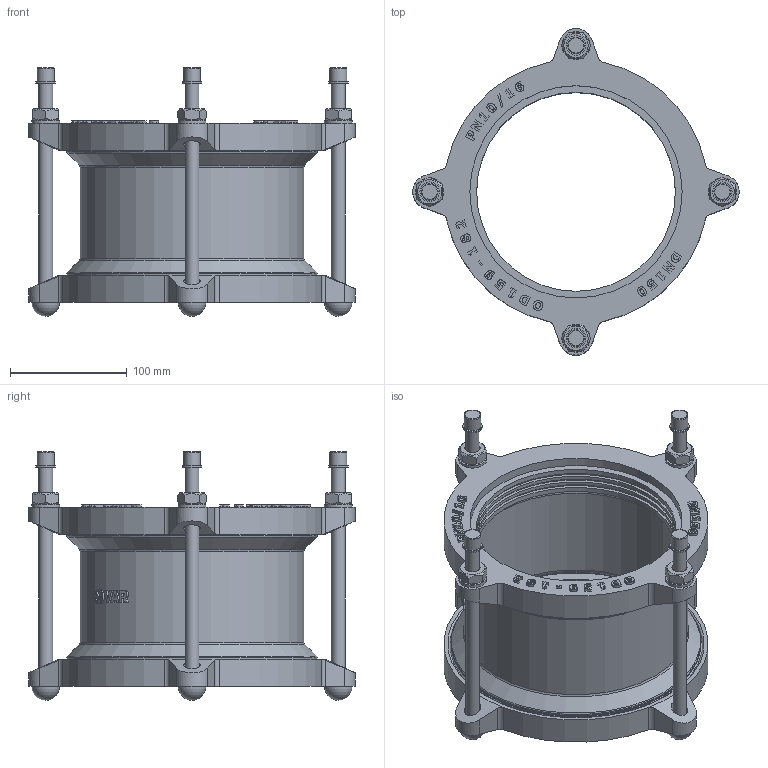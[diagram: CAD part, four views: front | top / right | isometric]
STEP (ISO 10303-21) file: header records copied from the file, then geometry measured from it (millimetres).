
FILE_DESCRIPTION(('STEP AP203'), '1');
FILE_NAME('Cîåäèíèòåëüíàÿ ìóôòà äëÿ æåñòêèõ òðóá', '', ('UNSPECIFIED'), ('UNSPECIFIED'), 'C3D Converter', 'C3D Toolkit', '');
FILE_SCHEMA(('CONFIG_CONTROL_DESIGN'));
Length unit declared in the file: millimetre
Assembly tree (21 placements, depth 2):
  (unnamed)
    (unnamed)
    (unnamed)  x4
    (unnamed)  x4
    (unnamed)  x4
    (unnamed)  x4
    (unnamed)
    (unnamed)
    (unnamed)  x2
Bounding box: 280 x 280 x 213.2 mm (x, y, z)
Volume: 1397756.3 mm3; surface area: 470749.6 mm2
Topology: 25 solids, 25 shells, 798 faces, 2017 edges, 1326 vertices
Faces by surface type: extrusion 336, plane 297, cylinder 105, cone 34, torus 22, sphere 4
Full cylindrical faces by diameter (mm): 12 x12, 12.253 x1, 13 x4, 14 x8, 14.4 x4, 16.8 x4, 24 x4, 170.5 x8, 176.25 x6, 182 x3, 187 x2, 192 x3, 214.5 x2, 217 x4
Entity records: 31589 total; most frequent: CARTESIAN_POINT 11062, ORIENTED_EDGE 3502, DIRECTION 2235, EDGE_CURVE 1751, VERTEX_POINT 1196, VECTOR 1159, B_SPLINE_CURVE_WITH_KNOTS 1072, EDGE_LOOP 835
